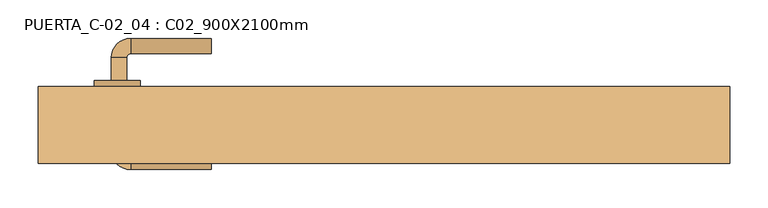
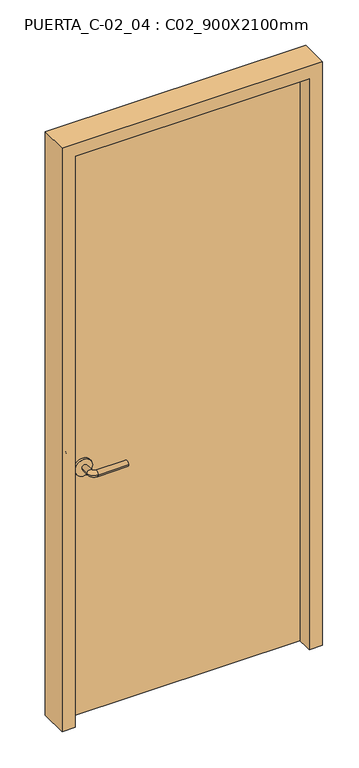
"""IFC4 building model written with IfcOpenShell, lengths in millimetres: door geometry, PUERTA_C-02_04 : C02_900X2100mm."""

from ifc_helpers import new_model, si_unit, point, frame, frame_2d, origin, origin_with_axes, place, context, project, spatial, polyline, circle_curve, ellipse_curve, trimmed, segment, composite_curve, outline, extrude, faceted_brep, source, transform, mapped, element, save
from ifc_brep_helpers import plane_surface, cylinder_surface, revolved_surface, advanced_brep


def puerta_c_02_04_c02_900x2100mm_1ad69d61(model_context):
    return source(origin(), model_context, "Body", "SolidModel", [
        advanced_brep(
        [(-354.990625, 3.35, 900.0), (-334.990625, 3.35, 900.0), (-334.990625, -26.65, 900.0), (-354.990625, -26.65, 900.0), (-329.990625, -31.65, 900.0), (-329.990625, -51.65, 900.0), (-224.990625, -51.65, 900.0), (-224.990625, -31.65, 900.0)],
        [
            (0, 1, circle_curve(frame((-344.990625, 3.35, 900.0), z_axis=(0.0, 1.0, 0.0), x_axis=(1.0, 0.0, 0.0)), 10.0)),
            (1, 0, circle_curve(frame((-344.990625, 3.35, 900.0), z_axis=(0.0, 1.0, 0.0), x_axis=(1.0, 0.0, 0.0)), 10.0)),
            (1, 2),
            (2, 3, circle_curve(frame((-344.990625, -26.65, 900.0), z_axis=(0.0, 1.0, 0.0), x_axis=(1.0, 0.0, 0.0)), 10.0)),
            (3, 0),
            (3, 2, circle_curve(frame((-344.990625, -26.65, 900.0), z_axis=(0.0, 1.0, 0.0), x_axis=(1.0, 0.0, 0.0)), 10.0)),
            (4, 5, circle_curve(frame((-329.990625, -41.65, 900.0), z_axis=(-1.0, 0.0, 0.0), x_axis=(0.0, 1.0, 0.0)), 10.0)),
            (5, 3, circle_curve(frame((-329.990625, -26.65, 900.0), z_axis=(0.0, 0.0, -1.0), x_axis=(-1.0, 0.0, 0.0)), 25.0)),
            (2, 4, circle_curve(frame((-329.990625, -26.65, 900.0), z_axis=(0.0, 0.0, 1.0), x_axis=(-1.0, 0.0, 0.0)), 5.0)),
            (5, 4, circle_curve(frame((-329.990625, -41.65, 900.0), z_axis=(-1.0, 0.0, 0.0), x_axis=(0.0, 1.0, 0.0)), 10.0)),
            (6, 7, circle_curve(frame((-224.990625, -41.65, 900.0), z_axis=(1.0, 0.0, 0.0), x_axis=(0.0, 1.0, 0.0)), 10.0)),
            (7, 6, circle_curve(frame((-224.990625, -41.65, 900.0), z_axis=(1.0, 0.0, 0.0), x_axis=(0.0, 1.0, 0.0)), 10.0)),
            (4, 7),
            (6, 5),
        ],
        [
            plane_surface(frame((-344.990625, 3.35, 900.0), z_axis=(0.0, 1.0, 0.0), x_axis=(0.0, 0.0, 1.0))),
            cylinder_surface(frame((-344.990625, 3.35, 900.0), z_axis=(0.0, 1.0, 0.0), x_axis=(1.0, 0.0, 0.0)), 10.0),
            revolved_surface(trimmed(ellipse_curve(frame((-344.990625, -26.65, 900.0), z_axis=(0.0, -1.0, 0.0), x_axis=(1.0, 0.0, 0.0)), 10.0, 10.0), [point((-354.990625, -26.65, 900.0))], [point((-334.990625, -26.65, 900.0))], True, "CARTESIAN"), (-329.990625, -26.65, 900.0), (0.0, 0.0, -1.0)),
            revolved_surface(trimmed(ellipse_curve(frame((-344.990625, -26.65, 900.0), z_axis=(0.0, -1.0, 0.0), x_axis=(1.0, 0.0, 0.0)), 10.0, 10.0), [point((-334.990625, -26.65, 900.0))], [point((-354.990625, -26.65, 900.0))], True, "CARTESIAN"), (-329.990625, -26.65, 900.0), (0.0, 0.0, -1.0)),
            plane_surface(frame((-224.990625, -41.65, 900.0), z_axis=(1.0, 0.0, 0.0), x_axis=(0.0, 0.0, 1.0))),
            cylinder_surface(frame((-329.990625, -41.65, 900.0), z_axis=(-1.0, 0.0, 0.0), x_axis=(0.0, 1.0, 0.0)), 10.0),
        ],
        [
            (0, [[1, 2]]),
            (1, [[3, 4, 5, -2]]),
            (1, [[-5, 6, -3, -1]]),
            (2, [[7, 8, -4, 9]]),
            (3, [[10, -9, -6, -8]]),
            (4, [[11, 12]]),
            (5, [[13, -11, 14, -7]]),
            (5, [[-14, -12, -13, -10]]),
        ],
    ),
        extrude(outline(composite_curve([segment(trimmed(circle_curve(frame_2d((900.0, -347.490625)), 30.0), [point((900.0, -377.490625))], [point((900.0, -317.490625))], False, "CARTESIAN"), True, "CONTINUOUS"), segment(trimmed(circle_curve(frame_2d((900.0, -347.490625)), 30.0), [point((900.0, -317.490625))], [point((900.0, -377.490625))], False, "CARTESIAN"), True, "CONTINUOUS")], self_intersect=False)), frame((0.0, 3.35, 0.0), z_axis=(0.0, 1.0, 0.0), x_axis=(0.0, 0.0, 1.0)), (0.0, 0.0, 1.0), 8.0),
        advanced_brep(
        [(-354.990625, 64.35, 900.0), (-334.990625, 64.35, 900.0), (-354.990625, 94.35, 900.0), (-334.990625, 94.35, 900.0), (-329.990625, 99.35, 900.0), (-329.990625, 119.35, 900.0), (-224.990625, 119.35, 900.0), (-224.990625, 99.35, 900.0)],
        [
            (0, 1, circle_curve(frame((-344.990625, 64.35, 900.0), z_axis=(0.0, -1.0, 0.0), x_axis=(1.0, 0.0, 0.0)), 10.0)),
            (1, 0, circle_curve(frame((-344.990625, 64.35, 900.0), z_axis=(0.0, -1.0, 0.0), x_axis=(1.0, 0.0, 0.0)), 10.0)),
            (0, 2),
            (2, 3, circle_curve(frame((-344.990625, 94.35, 900.0), z_axis=(0.0, -1.0, 0.0), x_axis=(1.0, 0.0, 0.0)), 10.0)),
            (3, 1),
            (3, 2, circle_curve(frame((-344.990625, 94.35, 900.0), z_axis=(0.0, -1.0, 0.0), x_axis=(1.0, 0.0, 0.0)), 10.0)),
            (4, 3, circle_curve(frame((-329.990625, 94.35, 900.0), z_axis=(0.0, 0.0, 1.0), x_axis=(-1.0, 0.0, 0.0)), 5.0)),
            (2, 5, circle_curve(frame((-329.990625, 94.35, 900.0), z_axis=(0.0, 0.0, -1.0), x_axis=(-1.0, 0.0, 0.0)), 25.0)),
            (5, 4, circle_curve(frame((-329.990625, 109.35, 900.0), z_axis=(-1.0, 0.0, 0.0), x_axis=(0.0, -1.0, 0.0)), 10.0)),
            (4, 5, circle_curve(frame((-329.990625, 109.35, 900.0), z_axis=(-1.0, 0.0, 0.0), x_axis=(0.0, -1.0, 0.0)), 10.0)),
            (6, 7, circle_curve(frame((-224.990625, 109.35, 900.0), z_axis=(1.0, 0.0, 0.0), x_axis=(0.0, -1.0, 0.0)), 10.0)),
            (7, 6, circle_curve(frame((-224.990625, 109.35, 900.0), z_axis=(1.0, 0.0, 0.0), x_axis=(0.0, -1.0, 0.0)), 10.0)),
            (5, 6),
            (7, 4),
        ],
        [
            plane_surface(frame((-344.990625, 64.35, 900.0), z_axis=(0.0, -1.0, 0.0), x_axis=(0.0, 0.0, 1.0))),
            cylinder_surface(frame((-344.990625, 64.35, 900.0), z_axis=(0.0, -1.0, 0.0), x_axis=(1.0, 0.0, 0.0)), 10.0),
            revolved_surface(trimmed(ellipse_curve(frame((-344.990625, 94.35, 900.0), z_axis=(0.0, -1.0, 0.0), x_axis=(1.0, 0.0, 0.0)), 10.0, 10.0), [point((-354.990625, 94.35, 900.0))], [point((-334.990625, 94.35, 900.0))], True, "CARTESIAN"), (-329.990625, 94.35, 900.0), (0.0, 0.0, -1.0)),
            revolved_surface(trimmed(ellipse_curve(frame((-344.990625, 94.35, 900.0), z_axis=(0.0, -1.0, 0.0), x_axis=(1.0, 0.0, 0.0)), 10.0, 10.0), [point((-334.990625, 94.35, 900.0))], [point((-354.990625, 94.35, 900.0))], True, "CARTESIAN"), (-329.990625, 94.35, 900.0), (0.0, 0.0, -1.0)),
            plane_surface(frame((-224.990625, 109.35, 900.0), z_axis=(1.0, 0.0, 0.0), x_axis=(0.0, 0.0, 1.0))),
            cylinder_surface(frame((-329.990625, 109.35, 900.0), z_axis=(-1.0, 0.0, 0.0), x_axis=(0.0, -1.0, 0.0)), 10.0),
        ],
        [
            (0, [[1, 2]]),
            (1, [[-1, 3, 4, 5]]),
            (1, [[-2, -5, 6, -3]]),
            (2, [[7, -4, 8, 9]]),
            (3, [[-8, -6, -7, 10]]),
            (4, [[11, 12]]),
            (5, [[-9, 13, -12, 14]]),
            (5, [[-10, -14, -11, -13]]),
        ],
    ),
        extrude(outline(composite_curve([segment(trimmed(circle_curve(frame_2d((900.0, -347.490625)), 30.0), [point((900.0, -377.490625))], [point((900.0, -317.490625))], False, "CARTESIAN"), True, "CONTINUOUS"), segment(trimmed(circle_curve(frame_2d((900.0, -347.490625)), 30.0), [point((900.0, -317.490625))], [point((900.0, -377.490625))], False, "CARTESIAN"), True, "CONTINUOUS")], self_intersect=False)), frame((0.0, 56.35, 0.0), z_axis=(0.0, 1.0, 0.0), x_axis=(0.0, 0.0, 1.0)), (0.0, 0.0, 1.0), 8.0),
        faceted_brep([(420.0, 33.1875, 0.0), (420.0, 56.35, 0.0), (450.0, 56.35, 0.0), (450.0, -43.65, 0.0), (404.125, -43.65, 0.0), (404.125, 33.1875, 0.0), (420.0, 33.1875, 2100.0), (420.0, 56.35, 2100.0), (-420.0, 56.35, 2100.0), (-420.0, 56.35, 0.0), (-450.0, 56.35, 0.0), (-450.0, 56.35, 2130.0), (450.0, 56.35, 2130.0), (450.0, -43.65, 2130.0), (-450.0, -43.65, 2130.0), (-450.0, -43.65, 0.0), (-404.125, -43.65, 0.0), (-404.125, -43.65, 2084.125), (404.125, -43.65, 2084.125), (404.125, 33.1875, 2084.125), (-404.125, 33.1875, 2084.125), (-404.125, 33.1875, 0.0), (-420.0, 33.1875, 0.0), (-420.0, 33.1875, 2100.0)], [[[0, 1, 2, 3, 4, 5]], [[1, 0, 6, 7]], [[2, 1, 7, 8, 9, 10, 11, 12]], [[3, 2, 12, 13]], [[4, 3, 13, 14, 15, 16, 17, 18]], [[5, 4, 18, 19]], [[0, 5, 19, 20, 21, 22, 23, 6]], [[7, 6, 23, 8]], [[13, 12, 11, 14]], [[19, 18, 17, 20]], [[22, 21, 16, 15, 10, 9]], [[8, 23, 22, 9]], [[14, 11, 10, 15]], [[20, 17, 16, 21]]]),
        extrude(outline(polyline([(420.0, 11.35), (-420.0, 11.35), (-420.0, 56.35), (420.0, 56.35), (420.0, 11.35)])), origin_with_axes(), (0.0, 0.0, 1.0), 2100.0),
    ])


if __name__ == "__main__":
    model = new_model("IFC4")
    model_context = context("Model", 3, world=origin())
    ifc_project = project(units=[si_unit("LENGTHUNIT", "METRE", prefix="MILLI")], contexts=[model_context])
    site = spatial("IfcSite", under=ifc_project)
    building = spatial("IfcBuilding", under=site)
    placement = place(None, origin())
    puerta_c_02_04_c02_900x2100mm_shape = puerta_c_02_04_c02_900x2100mm_1ad69d61(model_context)
    element("IfcDoor", 1, ObjectType="PUERTA_C-02_04 : C02_900X2100mm", at=placement, inside=building, context=model_context, shape_type="MappedRepresentation", body=[
        mapped(puerta_c_02_04_c02_900x2100mm_shape, transform((0.0, 0.0, 0.0), x_axis=(1.0, 0.0, 0.0), y_axis=(0.0, 1.0, 0.0), z_axis=(0.0, 0.0, 1.0))),
    ])
    save(model, "model.ifc")
